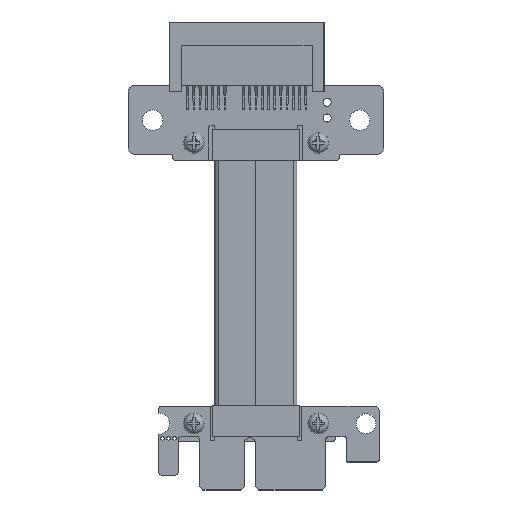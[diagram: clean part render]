
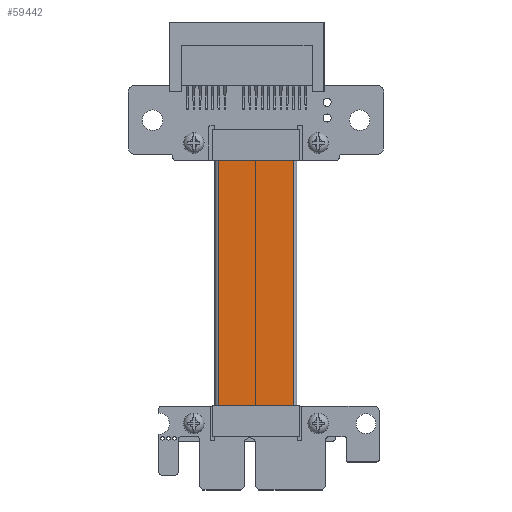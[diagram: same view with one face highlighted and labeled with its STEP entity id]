
A CAD part, top view. The second image highlights one B-rep face of the part: STEP entity #59442.
In plain terms, the highlighted planar face has unit normal (0, 0, 1) as drawn and (0, -1, 0) by its records, which use the part's own axes.
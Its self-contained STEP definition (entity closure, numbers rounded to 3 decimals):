
#59405 = VERTEX_POINT('',#59406);
#59406 = CARTESIAN_POINT('',(12.065,-1.4,-43.));
#59424 = VERTEX_POINT('',#59425);
#59425 = CARTESIAN_POINT('',(12.065,-1.4,0.));
#59432 = EDGE_CURVE('',#59405,#59424,#59433,.T.);
#59433 = LINE('',#59434,#59435);
#59434 = CARTESIAN_POINT('',(12.065,-1.4,-43.));
#59435 = VECTOR('',#59436,1.);
#59436 = DIRECTION('',(0.,0.,1.));
#59442 = ADVANCED_FACE('',(#59443),#59468,.T.);
#59443 = FACE_BOUND('',#59444,.T.);
#59444 = EDGE_LOOP('',(#59445,#59453,#59461,#59467));
#59445 = ORIENTED_EDGE('',*,*,#59446,.F.);
#59446 = EDGE_CURVE('',#59447,#59424,#59449,.T.);
#59447 = VERTEX_POINT('',#59448);
#59448 = CARTESIAN_POINT('',(0.,-1.4,
    0.));
#59449 = LINE('',#59450,#59451);
#59450 = CARTESIAN_POINT('',(6.032,-1.4,0.));
#59451 = VECTOR('',#59452,1.);
#59452 = DIRECTION('',(1.,0.,0.));
#59453 = ORIENTED_EDGE('',*,*,#59454,.F.);
#59454 = EDGE_CURVE('',#59455,#59447,#59457,.T.);
#59455 = VERTEX_POINT('',#59456);
#59456 = CARTESIAN_POINT('',(0.,-1.4,-43.)
  );
#59457 = LINE('',#59458,#59459);
#59458 = CARTESIAN_POINT('',(0.,-1.4,-43.)
  );
#59459 = VECTOR('',#59460,1.);
#59460 = DIRECTION('',(0.,0.,1.));
#59461 = ORIENTED_EDGE('',*,*,#59462,.T.);
#59462 = EDGE_CURVE('',#59455,#59405,#59463,.T.);
#59463 = LINE('',#59464,#59465);
#59464 = CARTESIAN_POINT('',(12.065,-1.4,-43.));
#59465 = VECTOR('',#59466,1.);
#59466 = DIRECTION('',(1.,0.,0.));
#59467 = ORIENTED_EDGE('',*,*,#59432,.T.);
#59468 = PLANE('',#59469);
#59469 = AXIS2_PLACEMENT_3D('',#59470,#59471,#59472);
#59470 = CARTESIAN_POINT('',(6.032,-1.4,-43.));
#59471 = DIRECTION('',(0.,-1.,0.));
#59472 = DIRECTION('',(0.,0.,-1.));
